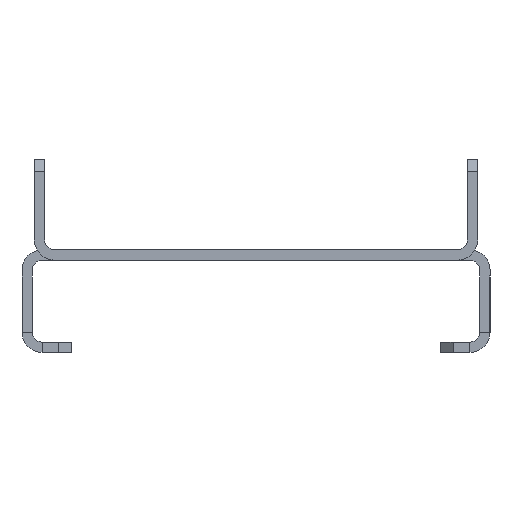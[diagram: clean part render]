
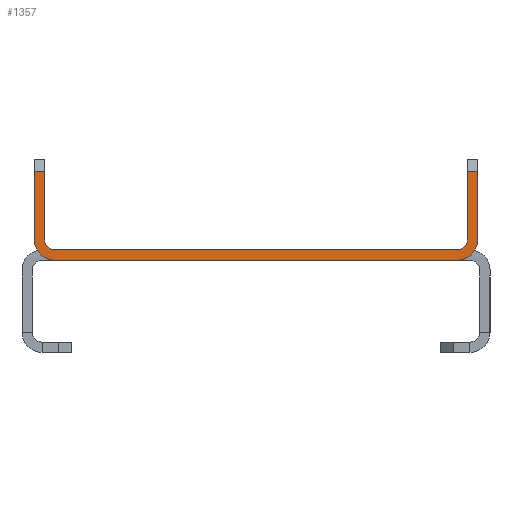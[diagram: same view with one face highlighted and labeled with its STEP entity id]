
A CAD part, front view. The second image highlights one B-rep face of the part: STEP entity #1357.
In plain terms, the highlighted planar face has unit normal (0, -1, 0).
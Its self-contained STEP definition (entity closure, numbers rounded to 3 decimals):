
#79 = AXIS2_PLACEMENT_3D ( 'NONE', #683, #682, #681 ) ;
#82 = FACE_OUTER_BOUND ( 'NONE', #2028, .T. ) ;
#261 = EDGE_CURVE ( 'NONE', #2100, #2101, #1849, .T. ) ;
#292 = EDGE_CURVE ( 'NONE', #2113, #2126, #1761, .T. ) ;
#351 = EDGE_CURVE ( 'NONE', #2113, #2167, #1219, .T. ) ;
#354 = EDGE_CURVE ( 'NONE', #2100, #2169, #1217, .T. ) ;
#359 = EDGE_CURVE ( 'NONE', #2167, #2171, #1560, .T. ) ;
#366 = EDGE_CURVE ( 'NONE', #2177, #2169, #1539, .T. ) ;
#371 = EDGE_CURVE ( 'NONE', #2180, #2126, #1213, .T. ) ;
#375 = EDGE_CURVE ( 'NONE', #2181, #2101, #1211, .T. ) ;
#380 = EDGE_CURVE ( 'NONE', #2180, #2185, #1497, .T. ) ;
#385 = EDGE_CURVE ( 'NONE', #2181, #2187, #1482, .T. ) ;
#419 = EDGE_CURVE ( 'NONE', #2177, #2171, #1122, .T. ) ;
#420 = EDGE_CURVE ( 'NONE', #2185, #2187, #1119, .T. ) ;
#535 = CARTESIAN_POINT ( 'NONE',  ( 51.5, -956.5, 21.5 ) ) ;
#537 = CARTESIAN_POINT ( 'NONE',  ( 54., -956.5, 21.5 ) ) ;
#541 = CARTESIAN_POINT ( 'NONE',  ( 51.5, -956.5, 4.9 ) ) ;
#542 = CARTESIAN_POINT ( 'NONE',  ( 54., -956.5, 4.9 ) ) ;
#545 = CARTESIAN_POINT ( 'NONE',  ( -51.5, -956.5, 21.5 ) ) ;
#551 = CARTESIAN_POINT ( 'NONE',  ( -54., -956.5, 21.5 ) ) ;
#553 = CARTESIAN_POINT ( 'NONE',  ( -51.5, -956.5, 4.9 ) ) ;
#555 = CARTESIAN_POINT ( 'NONE',  ( -54., -956.5, 4.9 ) ) ;
#596 = CARTESIAN_POINT ( 'NONE',  ( 49.1, -956.5, 0. ) ) ;
#609 = CARTESIAN_POINT ( 'NONE',  ( -49.1, -956.5, 0. ) ) ;
#621 = CARTESIAN_POINT ( 'NONE',  ( 49.1, -956.5, 2.5 ) ) ;
#622 = CARTESIAN_POINT ( 'NONE',  ( -49.1, -956.5, 2.5 ) ) ;
#681 = DIRECTION ( 'NONE',  ( 0., 0., -1. ) ) ;
#682 = DIRECTION ( 'NONE',  ( 0., -1., 0. ) ) ;
#683 = CARTESIAN_POINT ( 'NONE',  ( -54., -956.5, -22.5 ) ) ;
#684 = PLANE ( 'NONE',  #79 ) ;
#1117 = DIRECTION ( 'NONE',  ( -1., 0., 0. ) ) ;
#1118 = CARTESIAN_POINT ( 'NONE',  ( 51.5, -956.5, 21.5 ) ) ;
#1119 = LINE ( 'NONE', #1118, #2744 ) ;
#1120 = DIRECTION ( 'NONE',  ( -1., 0., 0. ) ) ;
#1121 = CARTESIAN_POINT ( 'NONE',  ( -54., -956.5, 21.5 ) ) ;
#1122 = LINE ( 'NONE', #1121, #2747 ) ;
#1211 = CIRCLE ( 'NONE', #2835, 2.4 ) ;
#1213 = CIRCLE ( 'NONE', #2846, 4.9 ) ;
#1217 = CIRCLE ( 'NONE', #2869, 2.4 ) ;
#1219 = CIRCLE ( 'NONE', #2775, 4.9 ) ;
#1357 = ADVANCED_FACE ( 'NONE', ( #82 ), #684, .T. ) ;
#1480 = DIRECTION ( 'NONE',  ( 0., 0., 1. ) ) ;
#1481 = CARTESIAN_POINT ( 'NONE',  ( 51.5, -956.5, 2.5 ) ) ;
#1482 = LINE ( 'NONE', #1481, #2822 ) ;
#1495 = DIRECTION ( 'NONE',  ( 0., 0., 1. ) ) ;
#1496 = CARTESIAN_POINT ( 'NONE',  ( 54., -956.5, -22.5 ) ) ;
#1497 = LINE ( 'NONE', #1496, #2830 ) ;
#1511 = DIRECTION ( 'NONE',  ( 0., 0., -1. ) ) ;
#1512 = DIRECTION ( 'NONE',  ( 0., 1., 0. ) ) ;
#1516 = CARTESIAN_POINT ( 'NONE',  ( 49.1, -956.5, 4.9 ) ) ;
#1523 = DIRECTION ( 'NONE',  ( 0., 0., -1. ) ) ;
#1524 = DIRECTION ( 'NONE',  ( 0., 1., 0. ) ) ;
#1537 = DIRECTION ( 'NONE',  ( 0., 0., -1. ) ) ;
#1538 = CARTESIAN_POINT ( 'NONE',  ( -51.5, -956.5, 24.5 ) ) ;
#1539 = LINE ( 'NONE', #1538, #2847 ) ;
#1546 = CARTESIAN_POINT ( 'NONE',  ( 49.1, -956.5, 4.9 ) ) ;
#1558 = DIRECTION ( 'NONE',  ( 0., 0., 1. ) ) ;
#1559 = CARTESIAN_POINT ( 'NONE',  ( -54., -956.5, -22.5 ) ) ;
#1560 = LINE ( 'NONE', #1559, #2858 ) ;
#1574 = DIRECTION ( 'NONE',  ( 0., 0., -1. ) ) ;
#1575 = DIRECTION ( 'NONE',  ( 0., 1., 0. ) ) ;
#1576 = CARTESIAN_POINT ( 'NONE',  ( -49.1, -956.5, 4.9 ) ) ;
#1583 = DIRECTION ( 'NONE',  ( 0., 0., -1. ) ) ;
#1584 = DIRECTION ( 'NONE',  ( 0., 1., 0. ) ) ;
#1585 = CARTESIAN_POINT ( 'NONE',  ( -49.1, -956.5, 4.9 ) ) ;
#1759 = DIRECTION ( 'NONE',  ( 1., 0., 0. ) ) ;
#1760 = CARTESIAN_POINT ( 'NONE',  ( -57., -956.5, 0. ) ) ;
#1761 = LINE ( 'NONE', #1760, #2842 ) ;
#1847 = DIRECTION ( 'NONE',  ( 1., 0., 0. ) ) ;
#1848 = CARTESIAN_POINT ( 'NONE',  ( -57., -956.5, 2.5 ) ) ;
#1849 = LINE ( 'NONE', #1848, #2730 ) ;
#2028 = EDGE_LOOP ( 'NONE', ( #2511, #2512, #2510, #2514, #2513, #2515, #2516, #2517, #2519, #2520, #2518, #2521 ) ) ;
#2100 = VERTEX_POINT ( 'NONE', #622 ) ;
#2101 = VERTEX_POINT ( 'NONE', #621 ) ;
#2113 = VERTEX_POINT ( 'NONE', #609 ) ;
#2126 = VERTEX_POINT ( 'NONE', #596 ) ;
#2167 = VERTEX_POINT ( 'NONE', #555 ) ;
#2169 = VERTEX_POINT ( 'NONE', #553 ) ;
#2171 = VERTEX_POINT ( 'NONE', #551 ) ;
#2177 = VERTEX_POINT ( 'NONE', #545 ) ;
#2180 = VERTEX_POINT ( 'NONE', #542 ) ;
#2181 = VERTEX_POINT ( 'NONE', #541 ) ;
#2185 = VERTEX_POINT ( 'NONE', #537 ) ;
#2187 = VERTEX_POINT ( 'NONE', #535 ) ;
#2510 = ORIENTED_EDGE ( 'NONE', *, *, #359, .F. ) ;
#2511 = ORIENTED_EDGE ( 'NONE', *, *, #366, .F. ) ;
#2512 = ORIENTED_EDGE ( 'NONE', *, *, #419, .T. ) ;
#2513 = ORIENTED_EDGE ( 'NONE', *, *, #292, .T. ) ;
#2514 = ORIENTED_EDGE ( 'NONE', *, *, #351, .F. ) ;
#2515 = ORIENTED_EDGE ( 'NONE', *, *, #371, .F. ) ;
#2516 = ORIENTED_EDGE ( 'NONE', *, *, #380, .T. ) ;
#2517 = ORIENTED_EDGE ( 'NONE', *, *, #420, .T. ) ;
#2518 = ORIENTED_EDGE ( 'NONE', *, *, #261, .F. ) ;
#2519 = ORIENTED_EDGE ( 'NONE', *, *, #385, .F. ) ;
#2520 = ORIENTED_EDGE ( 'NONE', *, *, #375, .T. ) ;
#2521 = ORIENTED_EDGE ( 'NONE', *, *, #354, .T. ) ;
#2730 = VECTOR ( 'NONE', #1847, 1000. ) ;
#2744 = VECTOR ( 'NONE', #1117, 1000. ) ;
#2747 = VECTOR ( 'NONE', #1120, 1000. ) ;
#2775 = AXIS2_PLACEMENT_3D ( 'NONE', #1585, #1584, #1583 ) ;
#2822 = VECTOR ( 'NONE', #1480, 1000. ) ;
#2830 = VECTOR ( 'NONE', #1495, 1000. ) ;
#2835 = AXIS2_PLACEMENT_3D ( 'NONE', #1516, #1512, #1511 ) ;
#2842 = VECTOR ( 'NONE', #1759, 1000. ) ;
#2846 = AXIS2_PLACEMENT_3D ( 'NONE', #1546, #1524, #1523 ) ;
#2847 = VECTOR ( 'NONE', #1537, 1000. ) ;
#2858 = VECTOR ( 'NONE', #1558, 1000. ) ;
#2869 = AXIS2_PLACEMENT_3D ( 'NONE', #1576, #1575, #1574 ) ;
